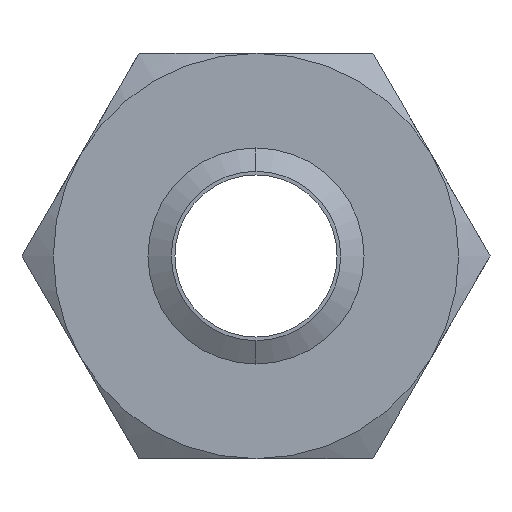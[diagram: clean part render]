
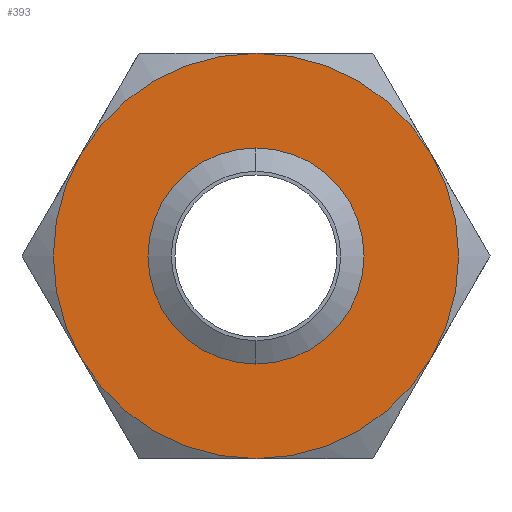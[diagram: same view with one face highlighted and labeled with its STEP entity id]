
A CAD part, front view. The second image highlights one B-rep face of the part: STEP entity #393.
In plain terms, the highlighted planar face has unit normal (0, -1, 0).
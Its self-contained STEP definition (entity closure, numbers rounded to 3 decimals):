
#140 = VERTEX_POINT ( 'NONE', #727 ) ;
#141 = VERTEX_POINT ( 'NONE', #726 ) ;
#179 = EDGE_CURVE ( 'NONE', #140, #141, #784, .T. ) ;
#372 = EDGE_CURVE ( 'NONE', #441, #443, #1136, .T. ) ;
#373 = ORIENTED_EDGE ( 'NONE', *, *, #374, .F. ) ;
#374 = EDGE_CURVE ( 'NONE', #375, #441, #1131, .T. ) ;
#375 = VERTEX_POINT ( 'NONE', #1127 ) ;
#376 = ORIENTED_EDGE ( 'NONE', *, *, #377, .F. ) ;
#377 = EDGE_CURVE ( 'NONE', #378, #375, #1126, .T. ) ;
#378 = VERTEX_POINT ( 'NONE', #1185 ) ;
#379 = ORIENTED_EDGE ( 'NONE', *, *, #380, .F. ) ;
#380 = EDGE_CURVE ( 'NONE', #381, #378, #1184, .T. ) ;
#381 = VERTEX_POINT ( 'NONE', #1179 ) ;
#382 = ORIENTED_EDGE ( 'NONE', *, *, #383, .F. ) ;
#383 = EDGE_CURVE ( 'NONE', #444, #381, #1177, .T. ) ;
#384 = EDGE_LOOP ( 'NONE', ( #385, #386 ) ) ;
#385 = ORIENTED_EDGE ( 'NONE', *, *, #179, .F. ) ;
#386 = ORIENTED_EDGE ( 'NONE', *, *, #387, .F. ) ;
#387 = EDGE_CURVE ( 'NONE', #141, #140, #1172, .T. ) ;
#388 = ORIENTED_EDGE ( 'NONE', *, *, #442, .F. ) ;
#393 = ADVANCED_FACE ( 'NONE', ( #1159, #1158 ), #1220, .F. ) ;
#394 = EDGE_LOOP ( 'NONE', ( #388, #440, #373, #376, #379, #382 ) ) ;
#440 = ORIENTED_EDGE ( 'NONE', *, *, #372, .F. ) ;
#441 = VERTEX_POINT ( 'NONE', #1307 ) ;
#442 = EDGE_CURVE ( 'NONE', #443, #444, #1306, .T. ) ;
#443 = VERTEX_POINT ( 'NONE', #1301 ) ;
#444 = VERTEX_POINT ( 'NONE', #1300 ) ;
#726 = CARTESIAN_POINT ( 'NONE',  ( 0., 0., 15.67 ) ) ;
#727 = CARTESIAN_POINT ( 'NONE',  ( 0., 0., -15.67 ) ) ;
#780 = DIRECTION ( 'NONE',  ( 0., 0., -1. ) ) ;
#781 = DIRECTION ( 'NONE',  ( 0., -1., 0. ) ) ;
#782 = CARTESIAN_POINT ( 'NONE',  ( 0., 0., 0. ) ) ;
#783 = AXIS2_PLACEMENT_3D ( 'NONE', #782, #781, #780 ) ;
#784 = CIRCLE ( 'NONE', #783, 15.67 ) ;
#1126 = CIRCLE ( 'NONE', #1189, 37.5 ) ;
#1127 = CARTESIAN_POINT ( 'NONE',  ( -32.476, 0., -18.75 ) ) ;
#1128 = DIRECTION ( 'NONE',  ( 0., 0., 1. ) ) ;
#1129 = DIRECTION ( 'NONE',  ( 0., 1., 0. ) ) ;
#1130 = AXIS2_PLACEMENT_3D ( 'NONE', #1137, #1129, #1128 ) ;
#1131 = CIRCLE ( 'NONE', #1130, 37.5 ) ;
#1132 = DIRECTION ( 'NONE',  ( 0., 0., 1. ) ) ;
#1133 = DIRECTION ( 'NONE',  ( 0., 1., 0. ) ) ;
#1134 = CARTESIAN_POINT ( 'NONE',  ( 0., 0., 0. ) ) ;
#1135 = AXIS2_PLACEMENT_3D ( 'NONE', #1134, #1133, #1132 ) ;
#1136 = CIRCLE ( 'NONE', #1135, 37.5 ) ;
#1137 = CARTESIAN_POINT ( 'NONE',  ( 0., 0., 0. ) ) ;
#1158 = FACE_BOUND ( 'NONE', #384, .T. ) ;
#1159 = FACE_OUTER_BOUND ( 'NONE', #394, .T. ) ;
#1169 = DIRECTION ( 'NONE',  ( 0., 0., -1. ) ) ;
#1170 = DIRECTION ( 'NONE',  ( 0., -1., 0. ) ) ;
#1171 = AXIS2_PLACEMENT_3D ( 'NONE', #1178, #1170, #1169 ) ;
#1172 = CIRCLE ( 'NONE', #1171, 15.67 ) ;
#1173 = DIRECTION ( 'NONE',  ( 0., 0., 1. ) ) ;
#1174 = DIRECTION ( 'NONE',  ( 0., 1., 0. ) ) ;
#1175 = CARTESIAN_POINT ( 'NONE',  ( 0., 0., 0. ) ) ;
#1176 = AXIS2_PLACEMENT_3D ( 'NONE', #1175, #1174, #1173 ) ;
#1177 = CIRCLE ( 'NONE', #1176, 37.5 ) ;
#1178 = CARTESIAN_POINT ( 'NONE',  ( 0., 0., 0. ) ) ;
#1179 = CARTESIAN_POINT ( 'NONE',  ( 32.476, 0., -18.75 ) ) ;
#1180 = DIRECTION ( 'NONE',  ( 0., 0., 1. ) ) ;
#1181 = DIRECTION ( 'NONE',  ( 0., 1., 0. ) ) ;
#1182 = CARTESIAN_POINT ( 'NONE',  ( 0., 0., 0. ) ) ;
#1183 = AXIS2_PLACEMENT_3D ( 'NONE', #1182, #1181, #1180 ) ;
#1184 = CIRCLE ( 'NONE', #1183, 37.5 ) ;
#1185 = CARTESIAN_POINT ( 'NONE',  ( 0., 0., -37.5 ) ) ;
#1186 = DIRECTION ( 'NONE',  ( 0., 0., 1. ) ) ;
#1187 = DIRECTION ( 'NONE',  ( 0., 1., 0. ) ) ;
#1188 = CARTESIAN_POINT ( 'NONE',  ( 0., 0., 0. ) ) ;
#1189 = AXIS2_PLACEMENT_3D ( 'NONE', #1188, #1187, #1186 ) ;
#1216 = DIRECTION ( 'NONE',  ( 0., 0., 1. ) ) ;
#1217 = DIRECTION ( 'NONE',  ( 0., 1., 0. ) ) ;
#1218 = CARTESIAN_POINT ( 'NONE',  ( 21.651, 0., -37.5 ) ) ;
#1219 = AXIS2_PLACEMENT_3D ( 'NONE', #1218, #1217, #1216 ) ;
#1220 = PLANE ( 'NONE',  #1219 ) ;
#1300 = CARTESIAN_POINT ( 'NONE',  ( 32.476, 0., 18.75 ) ) ;
#1301 = CARTESIAN_POINT ( 'NONE',  ( 0., 0., 37.5 ) ) ;
#1302 = DIRECTION ( 'NONE',  ( 0., 0., 1. ) ) ;
#1303 = DIRECTION ( 'NONE',  ( 0., 1., 0. ) ) ;
#1304 = CARTESIAN_POINT ( 'NONE',  ( 0., 0., 0. ) ) ;
#1305 = AXIS2_PLACEMENT_3D ( 'NONE', #1304, #1303, #1302 ) ;
#1306 = CIRCLE ( 'NONE', #1305, 37.5 ) ;
#1307 = CARTESIAN_POINT ( 'NONE',  ( -32.476, 0., 18.75 ) ) ;
